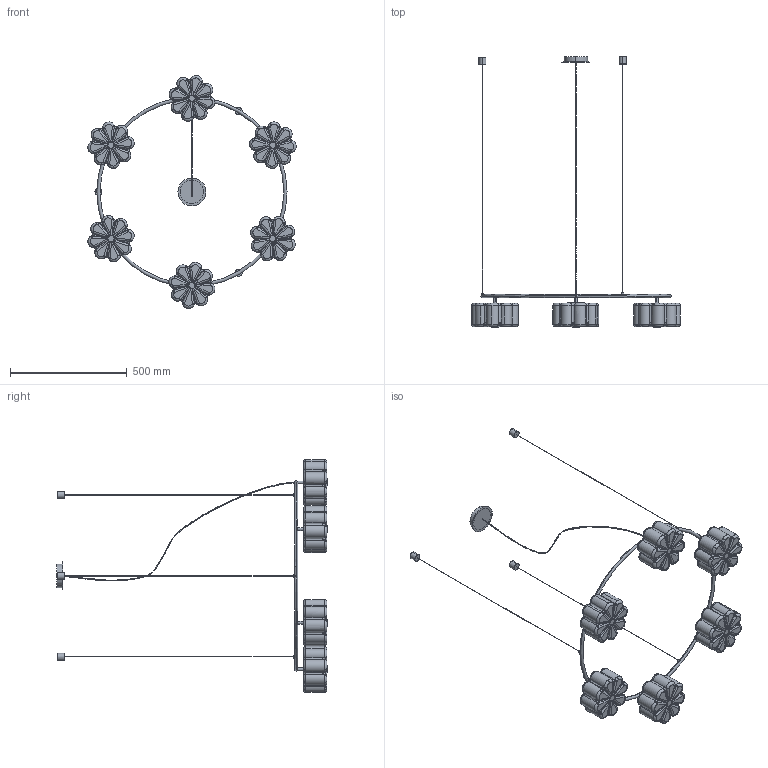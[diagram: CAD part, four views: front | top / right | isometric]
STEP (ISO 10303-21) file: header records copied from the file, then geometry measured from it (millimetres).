
FILE_DESCRIPTION (( 'STEP AP214' ), '1' );
FILE_NAME ('FLOW_C1339_6.STEP', '2024-10-22T10:10:21', ( '' ), ( '' ), 'SwSTEP 2.0', 'SolidWorks 2018', '' );
FILE_SCHEMA (( 'AUTOMOTIVE_DESIGN' ));
Length unit declared in the file: millimetre
Products named in the file (3): ESTRUCTURA COLGANTE GINA; FLOW_C1339_6; DEFITULIPA
Assembly tree (7 placements, depth 2):
  FLOW_C1339_6
    ESTRUCTURA COLGANTE GINA
    DEFITULIPA  x6
Bounding box: 892.03 x 1158 x 996.43 mm (x, y, z)
Volume: 16616547.1 mm3; surface area: 948522.1 mm2
Topology: 27 solids, 27 shells, 984 faces, 2272 edges, 1348 vertices
Faces by surface type: bspline 242, torus 196, cylinder 184, plane 158, sphere 108, cone 96
Entity records: 10544 total; most frequent: CARTESIAN_POINT 5134, ORIENTED_EDGE 954, DIRECTION 921, EDGE_CURVE 477, AXIS2_PLACEMENT_3D 423, VERTEX_POINT 288, CIRCLE 236, EDGE_LOOP 227
